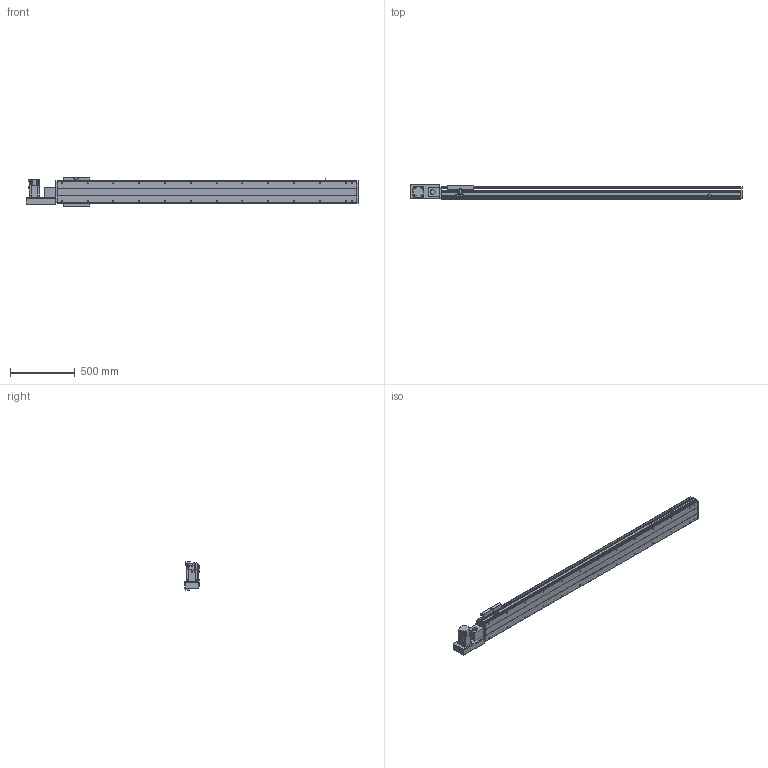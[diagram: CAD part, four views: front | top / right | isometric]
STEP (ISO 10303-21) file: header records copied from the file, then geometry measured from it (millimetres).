
FILE_DESCRIPTION(/* description */ ('STEP AP214'),/* implementation_level */ '2;1');
FILE_NAME(/* name */ 'PBS200-P40-S1950-L-T75-C1-N(0)',/* time_stamp */ '2022-06-11T07:50:01+02:00',/* author */ ('License CC BY-ND 4.0'),/* organization */ ('CADENAS'),/* preprocessor_version */ 'ST-DEVELOPER v18.102',/* originating_system */ 'PARTsolutions',/* authorisation */ ' ');
FILE_SCHEMA (('AUTOMOTIVE_DESIGN {1 0 10303 214 3 1 1}'));
Length unit declared in the file: millimetre
Products named in the file (7): PBS200-P40-S1950-L-T75-C1-N(0); PBS200_sensor; PBS200_plant; PBS200_sliser; T75-p1; PBS200T-L_motors; PBS200-S1950()_body
Assembly tree (8 placements, depth 2):
  PBS200-P40-S1950-L-T75-C1-N(0)
    PBS200_sensor  x3
    PBS200_plant
    PBS200_sliser
    T75-p1
    PBS200T-L_motors
    PBS200-S1950()_body
Bounding box: 2572 x 109 x 221 mm (x, y, z)
Volume: 17169086.4 mm3; surface area: 2755089 mm2
Topology: 8 solids, 8 shells, 950 faces, 2424 edges, 1578 vertices
Faces by surface type: plane 584, cylinder 308, cone 58
Full cylindrical faces by diameter (mm): 2.459 x6, 3.242 x4, 4.5 x6, 4.917 x4, 5 x6, 6 x7, 6.6 x8, 6.647 x30, 8 x6, 10 x4, 12 x8, 38 x2, 40 x1, 70 x1
Entity records: 25181 total; most frequent: DIRECTION 4447, CARTESIAN_POINT 4282, ORIENTED_EDGE 4042, EDGE_CURVE 2021, AXIS2_PLACEMENT_3D 1567, VERTEX_POINT 1402, LINE 1313, VECTOR 1313
